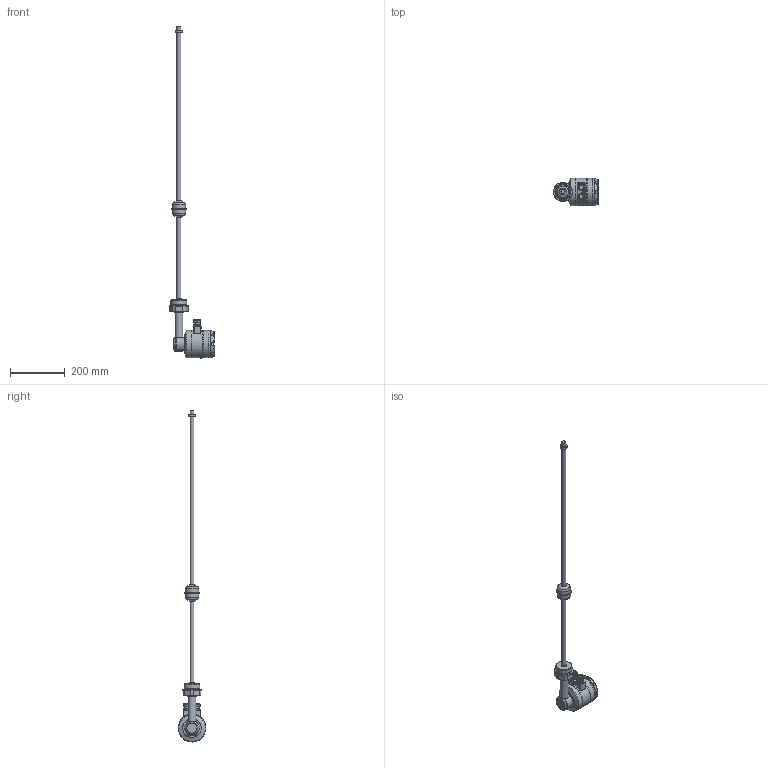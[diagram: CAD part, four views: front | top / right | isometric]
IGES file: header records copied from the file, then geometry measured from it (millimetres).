
Global section: file name: M_X ház_Bszer_2col,; native system: Autodesk Inventor 2015; preprocessor: unknown; author: aantal; date: 20150713.095715; units: millimetre
Bounding box: 166 x 100.48 x 1216.27 mm (x, y, z)
Volume: 1379209.9 mm3; surface area: 170837.4 mm2
Topology: 13 solids, 13 shells, 465 faces, 1164 edges, 761 vertices
Faces by surface type: bspline 465
